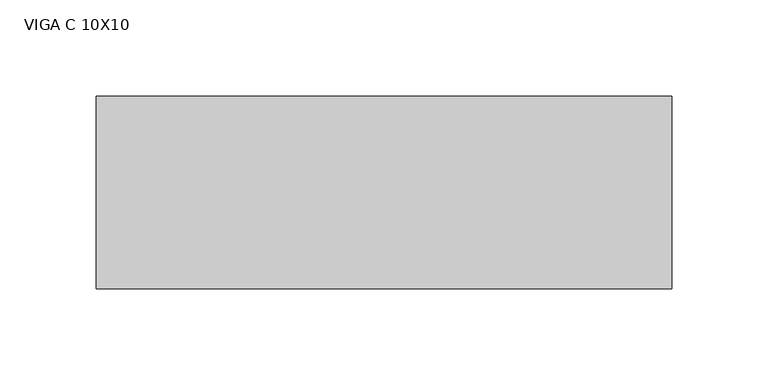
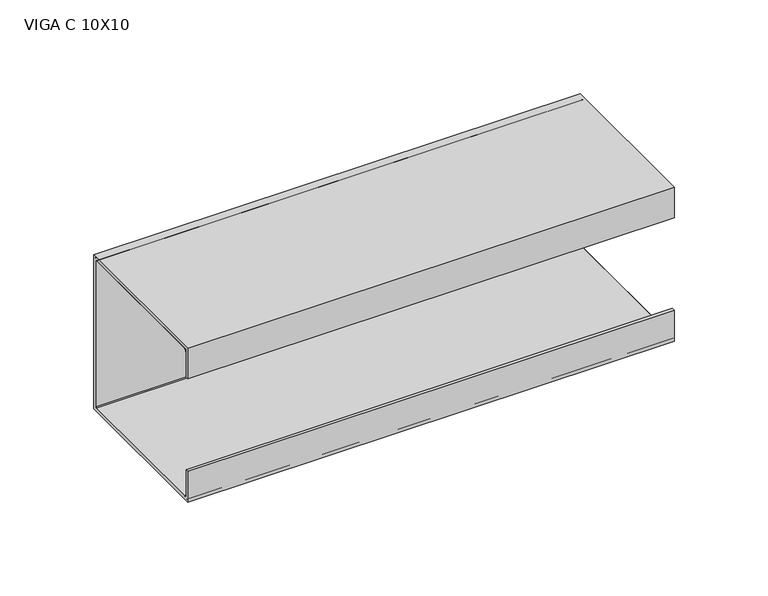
"""IFC4 building model written with IfcOpenShell, lengths in millimetres: beam geometry, VIGA PERFIL C AÇO : VIGA C 10X10."""

from ifc_helpers import new_model, si_unit, point, frame, frame_2d, origin, place, context, project, spatial, polyline, circle_curve, trimmed, segment, composite_curve, outline, extrude, source, transform, mapped, element, save


def viga_c_10x10_cb790618(model_context):
    return source(origin(), model_context, "Body", "SweptSolid", [
        extrude(outline(polyline([(9.2, -50.0), (-90.8, -50.0), (-90.8, -30.0), (-88.9, -30.0), (-88.9, -48.1), (7.3, -48.1), (7.3, 48.1), (-88.9, 48.1), (-88.9, 30.0), (-90.8, 30.0), (-90.8, 50.0), (9.2, 50.0), (9.2, -50.0)])), frame((-150.5, 0.0, 0.0), z_axis=(1.0, 0.0, 0.0), x_axis=(0.0, 1.0, 0.0)), (0.0, 0.0, 1.0), 299.0),
        extrude(outline(composite_curve([segment(trimmed(circle_curve(frame_2d((5.4, -46.2)), 3.8), [point((9.2, -46.2))], [point((5.4, -50.0))], False, "CARTESIAN"), True, "CONTINUOUS"), segment(polyline([(5.4, -50.0), (-87.0, -50.0)]), True, "CONTINUOUS"), segment(trimmed(circle_curve(frame_2d((-87.0, -46.2)), 3.8), [point((-87.0, -50.0))], [point((-90.8, -46.2))], False, "CARTESIAN"), True, "CONTINUOUS"), segment(polyline([(-90.8, -46.2), (-90.8, -30.0), (-88.9, -30.0), (-88.9, -46.2)]), True, "CONTINUOUS"), segment(trimmed(circle_curve(frame_2d((-87.0, -46.2)), 1.9), [point((-88.9, -46.2))], [point((-87.0, -48.1))], True, "CARTESIAN"), True, "CONTINUOUS"), segment(polyline([(-87.0, -48.1), (5.4, -48.1)]), True, "CONTINUOUS"), segment(trimmed(circle_curve(frame_2d((5.4, -46.2)), 1.9), [point((5.4, -48.1))], [point((7.3, -46.2))], True, "CARTESIAN"), True, "CONTINUOUS"), segment(polyline([(7.3, -46.2), (7.3, 46.2)]), True, "CONTINUOUS"), segment(trimmed(circle_curve(frame_2d((5.4, 46.2)), 1.9), [point((7.3, 46.2))], [point((5.4, 48.1))], True, "CARTESIAN"), True, "CONTINUOUS"), segment(polyline([(5.4, 48.1), (-87.0, 48.1)]), True, "CONTINUOUS"), segment(trimmed(circle_curve(frame_2d((-87.0, 46.2)), 1.9), [point((-87.0, 48.1))], [point((-88.9, 46.2))], True, "CARTESIAN"), True, "CONTINUOUS"), segment(polyline([(-88.9, 46.2), (-88.9, 30.0), (-90.8, 30.0), (-90.8, 46.2)]), True, "CONTINUOUS"), segment(trimmed(circle_curve(frame_2d((-87.0, 46.2)), 3.8), [point((-90.8, 46.2))], [point((-87.0, 50.0))], False, "CARTESIAN"), True, "CONTINUOUS"), segment(polyline([(-87.0, 50.0), (5.4, 50.0)]), True, "CONTINUOUS"), segment(trimmed(circle_curve(frame_2d((5.4, 46.2)), 3.8), [point((5.4, 50.0))], [point((9.2, 46.2))], False, "CARTESIAN"), True, "CONTINUOUS"), segment(polyline([(9.2, 46.2), (9.2, -46.2)]), True, "CONTINUOUS")], self_intersect=False)), frame((-150.5, 0.0, 0.0), z_axis=(1.0, 0.0, 0.0), x_axis=(0.0, 1.0, 0.0)), (0.0, 0.0, 1.0), 299.0),
    ])


if __name__ == "__main__":
    model = new_model("IFC4")
    model_context = context("Model", 3, world=origin())
    ifc_project = project(units=[si_unit("LENGTHUNIT", "METRE", prefix="MILLI")], contexts=[model_context])
    site = spatial("IfcSite", under=ifc_project)
    building = spatial("IfcBuilding", under=site)
    placement = place(None, origin())
    viga_c_10x10_shape = viga_c_10x10_cb790618(model_context)
    element("IfcBeam", 1, ObjectType="VIGA PERFIL C AÇO : VIGA C 10X10", at=placement, inside=building, context=model_context, shape_type="MappedRepresentation", body=[
        mapped(viga_c_10x10_shape, transform((0.0, 0.0, 0.0), x_axis=(1.0, 0.0, 0.0), y_axis=(0.0, 1.0, 0.0), z_axis=(0.0, 0.0, 1.0))),
    ])
    save(model, "model.ifc")
